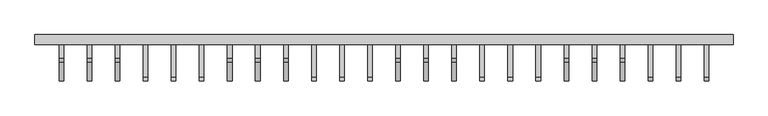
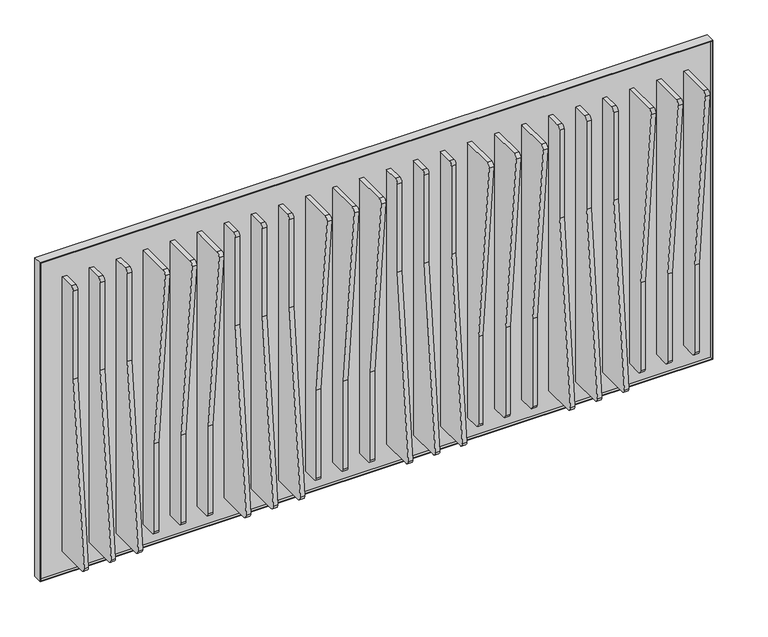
"""IFC4 building model written with IfcOpenShell, lengths in millimetres: proxy geometry, Frames_Plungle 3.3dm."""

import ifcopenshell
import ifcopenshell.guid

model = None  # the IFC model being written
_history = None  # IfcOwnerHistory: only IFC2X3 demands one
_inside = {}  # id of a spatial element -> (the spatial element, [elements in it])
_under = {}  # id of a project, library or spatial element -> (it, [spatial elements below it])
_declared = {}  # id of a project -> (the project, [libraries it declares])
_typed = {}  # id of a type object -> (the type object, [elements of that type])
_made_of = {}  # id of a material, layer set ... -> (it, [elements and type objects made of it])


def new_model(schema):
    """Start an empty IFC model of exactly this schema.

    Asked for "IFC4X3", IfcOpenShell would pick the latest addendum, in which some entities
    have other attributes; the version numbers below select the first issue.
    IFC2X3 requires an IfcOwnerHistory on every rooted entity: one is made here for all.
    """
    global model, _history
    if schema == "IFC4X3":
        model = ifcopenshell.file(schema_version=(4, 3, 0, 0))
    else:
        model = ifcopenshell.file(schema=schema)
    _inside.clear()
    _under.clear()
    _declared.clear()
    _typed.clear()
    _made_of.clear()
    _history = None
    if model.schema == "IFC2X3":
        org = make("IfcOrganization", Name="unknown")
        user = make(
            "IfcPersonAndOrganization",
            ThePerson=make("IfcPerson", FamilyName="unknown"),
            TheOrganization=org,
        )
        app = make(
            "IfcApplication",
            ApplicationDeveloper=org,
            Version="unknown",
            ApplicationFullName="unknown",
            ApplicationIdentifier="unknown",
        )
        _history = make(
            "IfcOwnerHistory",
            OwningUser=user,
            OwningApplication=app,
            ChangeAction="ADDED",
            CreationDate=0,
        )
    return model


def make(cls, **values):
    """One entity of the class cls with the attributes given. An attribute that is None is left unset."""
    return model.create_entity(
        cls, **{name: value for name, value in values.items() if value is not None}
    )


def rooted(cls, **values):
    """An entity with a GlobalId (a new one), such as an element, a storey or a relation."""
    return make(cls, GlobalId=ifcopenshell.guid.new(), OwnerHistory=_history, **values)


def si_unit(unit_type, name, prefix=None):
    """IfcSIUnit, for example si_unit("LENGTHUNIT", "METRE", prefix="MILLI")."""
    return make("IfcSIUnit", UnitType=unit_type, Prefix=prefix, Name=name)


def assignment(units):
    """IfcUnitAssignment: the units of a project."""
    return None if units is None else make("IfcUnitAssignment", Units=units)


def point(xyz):
    """IfcCartesianPoint."""
    return None if xyz is None else make("IfcCartesianPoint", Coordinates=xyz)


def direction(xyz):
    """IfcDirection."""
    return None if xyz is None else make("IfcDirection", DirectionRatios=xyz)


def frame(location, z_axis=None, x_axis=None):
    """IfcAxis2Placement3D, a coordinate frame: its origin and axes. An axis left out is left unset."""
    return make(
        "IfcAxis2Placement3D",
        Location=point(location),
        Axis=direction(z_axis),
        RefDirection=direction(x_axis),
    )


def frame_2d(location, x_axis=None):
    """IfcAxis2Placement2D, a coordinate frame in the plane: its origin and x axis."""
    return make(
        "IfcAxis2Placement2D", Location=point(location), RefDirection=direction(x_axis)
    )


def origin():
    """The frame at (0, 0, 0) with its axes left unset."""
    return frame((0.0, 0.0, 0.0))


def place(relative_to, where):
    """IfcLocalPlacement: puts the frame where relative to a parent placement (None: the world)."""
    return make(
        "IfcLocalPlacement", PlacementRelTo=relative_to, RelativePlacement=where
    )


def context(
    kind, dimensions, precision=None, world=None, true_north=None, identifier=None
):
    """IfcGeometricRepresentationContext, for example the 3D "Model" context."""
    return make(
        "IfcGeometricRepresentationContext",
        ContextIdentifier=identifier,
        ContextType=kind,
        CoordinateSpaceDimension=dimensions,
        Precision=precision,
        WorldCoordinateSystem=world,
        TrueNorth=true_north,
    )


def project(units=None, contexts=None):
    """IfcProject with its units and contexts."""
    return rooted(
        "IfcProject",
        Name="project",
        RepresentationContexts=contexts,
        UnitsInContext=assignment(units),
    )


def spatial(cls, under=None, at=None, **own):
    """A site, building, storey or space (cls), placed at a placement, below another one or the project."""
    s = rooted(cls, ObjectPlacement=at, **own)
    if under is not None:
        _under.setdefault(under.id(), (under, []))[1].append(s)
    return s


def polyline(points):
    """IfcPolyline through the points."""
    return make("IfcPolyline", Points=[point(p) for p in points])


def circle_curve(where, radius):
    """IfcCircle in the frame where."""
    return make("IfcCircle", Position=where, Radius=radius)


def trimmed(basis, trim1, trim2, sense, master):
    """IfcTrimmedCurve: the piece of a basis curve between two trims."""
    return make(
        "IfcTrimmedCurve",
        BasisCurve=basis,
        Trim1=trim1,
        Trim2=trim2,
        SenseAgreement=sense,
        MasterRepresentation=master,
    )


def segment(curve, same_sense, transition):
    """IfcCompositeCurveSegment."""
    return make(
        "IfcCompositeCurveSegment",
        Transition=transition,
        SameSense=same_sense,
        ParentCurve=curve,
    )


def composite_curve(segments, self_intersect=None):
    """IfcCompositeCurve: segments joined end to end."""
    return make("IfcCompositeCurve", Segments=segments, SelfIntersect=self_intersect)


def outline(outer, holes=None, kind="AREA"):
    """IfcArbitraryClosedProfileDef: a profile drawn as a closed curve; with holes, ...WithVoids."""
    if holes is None:
        return make("IfcArbitraryClosedProfileDef", ProfileType=kind, OuterCurve=outer)
    return make(
        "IfcArbitraryProfileDefWithVoids",
        ProfileType=kind,
        OuterCurve=outer,
        InnerCurves=holes,
    )


def extrude(swept, where, along, depth):
    """IfcExtrudedAreaSolid: the profile swept, set in the frame where, extruded along a direction by depth."""
    return make(
        "IfcExtrudedAreaSolid",
        SweptArea=swept,
        Position=where,
        ExtrudedDirection=direction(along),
        Depth=depth,
    )


def shape(context_of_items, identifier, shape_type, items):
    """IfcShapeRepresentation: the items that make up one representation, for example the "Body"."""
    return make(
        "IfcShapeRepresentation",
        ContextOfItems=context_of_items,
        RepresentationIdentifier=identifier,
        RepresentationType=shape_type,
        Items=items,
    )


def source(mapping_origin, context_of_items, identifier, shape_type, items):
    """IfcRepresentationMap: a shape defined once, which mapped items show again and again."""
    return make(
        "IfcRepresentationMap",
        MappingOrigin=mapping_origin,
        MappedRepresentation=shape(context_of_items, identifier, shape_type, items),
    )


def transform(
    local_origin,
    x_axis=None,
    y_axis=None,
    z_axis=None,
    scale=None,
    scale2=None,
    scale3=None,
    uniform=True,
):
    """IfcCartesianTransformationOperator3D, or its non-uniform kind. x_axis, y_axis, z_axis: its Axis1, 2, 3."""
    if uniform:
        return make(
            "IfcCartesianTransformationOperator3D",
            Axis1=direction(x_axis),
            Axis2=direction(y_axis),
            LocalOrigin=point(local_origin),
            Scale=scale,
            Axis3=direction(z_axis),
        )
    return make(
        "IfcCartesianTransformationOperator3DnonUniform",
        Axis1=direction(x_axis),
        Axis2=direction(y_axis),
        LocalOrigin=point(local_origin),
        Scale=scale,
        Axis3=direction(z_axis),
        Scale2=scale2,
        Scale3=scale3,
    )


def mapped(mapping_source, mapping_target):
    """IfcMappedItem: shows the shape of a source again, moved by a transform."""
    return make(
        "IfcMappedItem", MappingSource=mapping_source, MappingTarget=mapping_target
    )


def made_of(thing, what):
    """Note that an element or type object is made of a material, layer set ...; save() writes the relation."""
    if what is not None:
        _made_of.setdefault(what.id(), (what, []))[1].append(thing)
    return thing


def element(
    cls,
    number,
    at=None,
    inside=None,
    cuts=None,
    type_object=None,
    material=None,
    context=None,
    identifier="Body",
    shape_type=None,
    held_by="IfcProductDefinitionShape",
    body=None,
    shapes=None,
    **own,
):
    """One element of the class cls, such as IfcWall. Its Tag is "e" and its number.

    at: its placement. inside: the storey or other place that contains it. cuts: it is an
    opening in that element (IfcRelVoidsElement). A single representation is given by context,
    identifier, shape_type and body (its items); several are given by shapes. held_by: the class
    of the entity that holds the representations. save() writes the other relations.
    """
    e = rooted(cls, Tag="e%d" % number, ObjectPlacement=at, **own)
    if body is not None:
        shapes = [shape(context, identifier, shape_type, body)]
    if shapes is not None:
        e.Representation = make(held_by, Representations=shapes)
    if inside is not None:
        _inside.setdefault(inside.id(), (inside, []))[1].append(e)
    if cuts is not None:
        rooted(
            "IfcRelVoidsElement", RelatingBuildingElement=cuts, RelatedOpeningElement=e
        )
    if type_object is not None:
        _typed.setdefault(type_object.id(), (type_object, []))[1].append(e)
    return made_of(e, material)


def aggregate(whole, parts):
    """IfcRelAggregates: a whole, such as a stair, and the parts it consists of."""
    return rooted("IfcRelAggregates", RelatingObject=whole, RelatedObjects=parts)


def save(model, path):
    """Write the relations noted so far, then the file.

    IfcRelAggregates (storeys below a building ...), IfcRelContainedInSpatialStructure (elements
    in a storey), IfcRelDefinesByType, IfcRelAssociatesMaterial and IfcRelDeclares: one each for
    every whole, place, type object, material and project.
    """
    for whole, parts in _under.values():
        aggregate(whole, parts)
    for where, things in _inside.values():
        rooted(
            "IfcRelContainedInSpatialStructure",
            RelatedElements=things,
            RelatingStructure=where,
        )
    for kind, things in _typed.values():
        rooted("IfcRelDefinesByType", RelatedObjects=things, RelatingType=kind)
    for what, things in _made_of.values():
        rooted("IfcRelAssociatesMaterial", RelatedObjects=things, RelatingMaterial=what)
    for by, libraries in _declared.values():
        rooted("IfcRelDeclares", RelatingContext=by, RelatedDefinitions=libraries)
    model.write(path)


def generic_models_b62d93f3(model_context):
    return source(origin(), model_context, "Body", "SweptSolid", [
        extrude(outline(composite_curve([segment(trimmed(circle_curve(frame_2d((109.527821, 1345.9345395)), 10.0), [point((99.527821, 1345.9345395))], [point((109.527821, 1355.9345395))], False, "CARTESIAN"), True, "CONTINUOUS"), segment(polyline([(109.527821, 1355.9345395), (151.027821, 1355.9345395), (151.027821, 578.0003479), (59.7551965, 578.0003479)]), True, "CONTINUOUS"), segment(trimmed(circle_curve(frame_2d((59.7551965, 588.0003479)), 10.0), [point((59.7551965, 578.0003479))], [point((49.8028267, 588.9751998))], False, "CARTESIAN"), True, "CONTINUOUS"), segment(polyline([(49.8028267, 588.9751998), (99.527821, 1096.6231423), (99.527821, 1345.9345395)]), True, "CONTINUOUS")], self_intersect=False)), frame((5757.9818571, 0.0, 0.0), z_axis=(1.0, 0.0, 0.0), x_axis=(0.0, 1.0, 0.0)), (0.0, 0.0, 1.0), 12.0),
        extrude(outline(composite_curve([segment(trimmed(circle_curve(frame_2d((109.527821, 1345.9345395)), 10.0), [point((99.527821, 1345.9345395))], [point((109.527821, 1355.9345395))], False, "CARTESIAN"), True, "CONTINUOUS"), segment(polyline([(109.527821, 1355.9345395), (151.027821, 1355.9345395), (151.027821, 578.0003479), (59.7551965, 578.0003479)]), True, "CONTINUOUS"), segment(trimmed(circle_curve(frame_2d((59.7551965, 588.0003479)), 10.0), [point((59.7551965, 578.0003479))], [point((49.8028267, 588.9751998))], False, "CARTESIAN"), True, "CONTINUOUS"), segment(polyline([(49.8028267, 588.9751998), (99.527821, 1096.6231423), (99.527821, 1345.9345395)]), True, "CONTINUOUS")], self_intersect=False)), frame((5830.4618571, 0.0, 0.0), z_axis=(1.0, 0.0, 0.0), x_axis=(0.0, 1.0, 0.0)), (0.0, 0.0, 1.0), 12.0),
        extrude(outline(composite_curve([segment(trimmed(circle_curve(frame_2d((109.527821, 1345.9345395)), 10.0), [point((99.527821, 1345.9345395))], [point((109.527821, 1355.9345395))], False, "CARTESIAN"), True, "CONTINUOUS"), segment(polyline([(109.527821, 1355.9345395), (151.027821, 1355.9345395), (151.027821, 578.0003479), (59.7551965, 578.0003479)]), True, "CONTINUOUS"), segment(trimmed(circle_curve(frame_2d((59.7551965, 588.0003479)), 10.0), [point((59.7551965, 578.0003479))], [point((49.8028267, 588.9751998))], False, "CARTESIAN"), True, "CONTINUOUS"), segment(polyline([(49.8028267, 588.9751998), (99.527821, 1096.6231423), (99.527821, 1345.9345395)]), True, "CONTINUOUS")], self_intersect=False)), frame((5902.9418571, 0.0, 0.0), z_axis=(1.0, 0.0, 0.0), x_axis=(0.0, 1.0, 0.0)), (0.0, 0.0, 1.0), 12.0),
        extrude(outline(composite_curve([segment(polyline([(99.527821, 588.0004668), (99.527821, 837.311864), (49.8028267, 1344.9598066)]), True, "CONTINUOUS"), segment(trimmed(circle_curve(frame_2d((59.7551965, 1345.9346584)), 10.0), [point((49.8028267, 1344.9598066))], [point((59.7551965, 1355.9346584))], False, "CARTESIAN"), True, "CONTINUOUS"), segment(polyline([(59.7551965, 1355.9346584), (151.027821, 1355.9346584), (151.027821, 578.0004668), (109.527821, 578.0004668)]), True, "CONTINUOUS"), segment(trimmed(circle_curve(frame_2d((109.527821, 588.0004668)), 10.0), [point((109.527821, 578.0004668))], [point((99.527821, 588.0004668))], False, "CARTESIAN"), True, "CONTINUOUS")], self_intersect=False)), frame((6120.3793508, 0.0, 0.0), z_axis=(1.0, 0.0, 0.0), x_axis=(0.0, 1.0, 0.0)), (0.0, 0.0, 1.0), 12.0),
        extrude(outline(composite_curve([segment(polyline([(99.527821, 588.0004668), (99.527821, 837.311864), (49.8028267, 1344.9598066)]), True, "CONTINUOUS"), segment(trimmed(circle_curve(frame_2d((59.7551965, 1345.9346584)), 10.0), [point((49.8028267, 1344.9598066))], [point((59.7551965, 1355.9346584))], False, "CARTESIAN"), True, "CONTINUOUS"), segment(polyline([(59.7551965, 1355.9346584), (151.027821, 1355.9346584), (151.027821, 578.0004668), (109.527821, 578.0004668)]), True, "CONTINUOUS"), segment(trimmed(circle_curve(frame_2d((109.527821, 588.0004668)), 10.0), [point((109.527821, 578.0004668))], [point((99.527821, 588.0004668))], False, "CARTESIAN"), True, "CONTINUOUS")], self_intersect=False)), frame((6047.8993508, 0.0, 0.0), z_axis=(1.0, 0.0, 0.0), x_axis=(0.0, 1.0, 0.0)), (0.0, 0.0, 1.0), 12.0),
        extrude(outline(composite_curve([segment(polyline([(99.527821, 588.0004668), (99.527821, 837.311864), (49.8028267, 1344.9598066)]), True, "CONTINUOUS"), segment(trimmed(circle_curve(frame_2d((59.7551965, 1345.9346584)), 10.0), [point((49.8028267, 1344.9598066))], [point((59.7551965, 1355.9346584))], False, "CARTESIAN"), True, "CONTINUOUS"), segment(polyline([(59.7551965, 1355.9346584), (151.027821, 1355.9346584), (151.027821, 578.0004668), (109.527821, 578.0004668)]), True, "CONTINUOUS"), segment(trimmed(circle_curve(frame_2d((109.527821, 588.0004668)), 10.0), [point((109.527821, 578.0004668))], [point((99.527821, 588.0004668))], False, "CARTESIAN"), True, "CONTINUOUS")], self_intersect=False)), frame((5975.4193508, 0.0, 0.0), z_axis=(1.0, 0.0, 0.0), x_axis=(0.0, 1.0, 0.0)), (0.0, 0.0, 1.0), 12.0),
        extrude(outline(composite_curve([segment(trimmed(circle_curve(frame_2d((109.527821, 1345.9345395)), 10.0), [point((99.527821, 1345.9345395))], [point((109.527821, 1355.9345395))], False, "CARTESIAN"), True, "CONTINUOUS"), segment(polyline([(109.527821, 1355.9345395), (151.027821, 1355.9345395), (151.027821, 578.0003479), (59.7551965, 578.0003479)]), True, "CONTINUOUS"), segment(trimmed(circle_curve(frame_2d((59.7551965, 588.0003479)), 10.0), [point((59.7551965, 578.0003479))], [point((49.8028267, 588.9751998))], False, "CARTESIAN"), True, "CONTINUOUS"), segment(polyline([(49.8028267, 588.9751998), (99.527821, 1096.6231423), (99.527821, 1345.9345395)]), True, "CONTINUOUS")], self_intersect=False)), frame((6192.8568445, 0.0, 0.0), z_axis=(1.0, 0.0, 0.0), x_axis=(0.0, 1.0, 0.0)), (0.0, 0.0, 1.0), 12.0),
        extrude(outline(composite_curve([segment(trimmed(circle_curve(frame_2d((109.527821, 1345.9345395)), 10.0), [point((99.527821, 1345.9345395))], [point((109.527821, 1355.9345395))], False, "CARTESIAN"), True, "CONTINUOUS"), segment(polyline([(109.527821, 1355.9345395), (151.027821, 1355.9345395), (151.027821, 578.0003479), (59.7551965, 578.0003479)]), True, "CONTINUOUS"), segment(trimmed(circle_curve(frame_2d((59.7551965, 588.0003479)), 10.0), [point((59.7551965, 578.0003479))], [point((49.8028267, 588.9751998))], False, "CARTESIAN"), True, "CONTINUOUS"), segment(polyline([(49.8028267, 588.9751998), (99.527821, 1096.6231423), (99.527821, 1345.9345395)]), True, "CONTINUOUS")], self_intersect=False)), frame((6265.3368445, 0.0, 0.0), z_axis=(1.0, 0.0, 0.0), x_axis=(0.0, 1.0, 0.0)), (0.0, 0.0, 1.0), 12.0),
        extrude(outline(composite_curve([segment(trimmed(circle_curve(frame_2d((109.527821, 1345.9345395)), 10.0), [point((99.527821, 1345.9345395))], [point((109.527821, 1355.9345395))], False, "CARTESIAN"), True, "CONTINUOUS"), segment(polyline([(109.527821, 1355.9345395), (151.027821, 1355.9345395), (151.027821, 578.0003479), (59.7551965, 578.0003479)]), True, "CONTINUOUS"), segment(trimmed(circle_curve(frame_2d((59.7551965, 588.0003479)), 10.0), [point((59.7551965, 578.0003479))], [point((49.8028267, 588.9751998))], False, "CARTESIAN"), True, "CONTINUOUS"), segment(polyline([(49.8028267, 588.9751998), (99.527821, 1096.6231423), (99.527821, 1345.9345395)]), True, "CONTINUOUS")], self_intersect=False)), frame((6337.8168445, 0.0, 0.0), z_axis=(1.0, 0.0, 0.0), x_axis=(0.0, 1.0, 0.0)), (0.0, 0.0, 1.0), 12.0),
        extrude(outline(composite_curve([segment(polyline([(99.527821, 588.0004668), (99.527821, 837.311864), (49.8028267, 1344.9598066)]), True, "CONTINUOUS"), segment(trimmed(circle_curve(frame_2d((59.7551965, 1345.9346584)), 10.0), [point((49.8028267, 1344.9598066))], [point((59.7551965, 1355.9346584))], False, "CARTESIAN"), True, "CONTINUOUS"), segment(polyline([(59.7551965, 1355.9346584), (151.027821, 1355.9346584), (151.027821, 578.0004668), (109.527821, 578.0004668)]), True, "CONTINUOUS"), segment(trimmed(circle_curve(frame_2d((109.527821, 588.0004668)), 10.0), [point((109.527821, 578.0004668))], [point((99.527821, 588.0004668))], False, "CARTESIAN"), True, "CONTINUOUS")], self_intersect=False)), frame((6555.2543383, 0.0, 0.0), z_axis=(1.0, 0.0, 0.0), x_axis=(0.0, 1.0, 0.0)), (0.0, 0.0, 1.0), 12.0),
        extrude(outline(composite_curve([segment(polyline([(99.527821, 588.0004668), (99.527821, 837.311864), (49.8028267, 1344.9598066)]), True, "CONTINUOUS"), segment(trimmed(circle_curve(frame_2d((59.7551965, 1345.9346584)), 10.0), [point((49.8028267, 1344.9598066))], [point((59.7551965, 1355.9346584))], False, "CARTESIAN"), True, "CONTINUOUS"), segment(polyline([(59.7551965, 1355.9346584), (151.027821, 1355.9346584), (151.027821, 578.0004668), (109.527821, 578.0004668)]), True, "CONTINUOUS"), segment(trimmed(circle_curve(frame_2d((109.527821, 588.0004668)), 10.0), [point((109.527821, 578.0004668))], [point((99.527821, 588.0004668))], False, "CARTESIAN"), True, "CONTINUOUS")], self_intersect=False)), frame((6482.7743383, 0.0, 0.0), z_axis=(1.0, 0.0, 0.0), x_axis=(0.0, 1.0, 0.0)), (0.0, 0.0, 1.0), 12.0),
        extrude(outline(composite_curve([segment(polyline([(99.527821, 588.0004668), (99.527821, 837.311864), (49.8028267, 1344.9598066)]), True, "CONTINUOUS"), segment(trimmed(circle_curve(frame_2d((59.7551965, 1345.9346584)), 10.0), [point((49.8028267, 1344.9598066))], [point((59.7551965, 1355.9346584))], False, "CARTESIAN"), True, "CONTINUOUS"), segment(polyline([(59.7551965, 1355.9346584), (151.027821, 1355.9346584), (151.027821, 578.0004668), (109.527821, 578.0004668)]), True, "CONTINUOUS"), segment(trimmed(circle_curve(frame_2d((109.527821, 588.0004668)), 10.0), [point((109.527821, 578.0004668))], [point((99.527821, 588.0004668))], False, "CARTESIAN"), True, "CONTINUOUS")], self_intersect=False)), frame((6410.2943383, 0.0, 0.0), z_axis=(1.0, 0.0, 0.0), x_axis=(0.0, 1.0, 0.0)), (0.0, 0.0, 1.0), 12.0),
        extrude(outline(composite_curve([segment(trimmed(circle_curve(frame_2d((109.527821, 1345.9345395)), 10.0), [point((99.527821, 1345.9345395))], [point((109.527821, 1355.9345395))], False, "CARTESIAN"), True, "CONTINUOUS"), segment(polyline([(109.527821, 1355.9345395), (151.027821, 1355.9345395), (151.027821, 578.0003479), (59.7551965, 578.0003479)]), True, "CONTINUOUS"), segment(trimmed(circle_curve(frame_2d((59.7551965, 588.0003479)), 10.0), [point((59.7551965, 578.0003479))], [point((49.8028267, 588.9751998))], False, "CARTESIAN"), True, "CONTINUOUS"), segment(polyline([(49.8028267, 588.9751998), (99.527821, 1096.6231423), (99.527821, 1345.9345395)]), True, "CONTINUOUS")], self_intersect=False)), frame((6627.731832, 0.0, 0.0), z_axis=(1.0, 0.0, 0.0), x_axis=(0.0, 1.0, 0.0)), (0.0, 0.0, 1.0), 12.0),
        extrude(outline(composite_curve([segment(trimmed(circle_curve(frame_2d((109.527821, 1345.9345395)), 10.0), [point((99.527821, 1345.9345395))], [point((109.527821, 1355.9345395))], False, "CARTESIAN"), True, "CONTINUOUS"), segment(polyline([(109.527821, 1355.9345395), (151.027821, 1355.9345395), (151.027821, 578.0003479), (59.7551965, 578.0003479)]), True, "CONTINUOUS"), segment(trimmed(circle_curve(frame_2d((59.7551965, 588.0003479)), 10.0), [point((59.7551965, 578.0003479))], [point((49.8028267, 588.9751998))], False, "CARTESIAN"), True, "CONTINUOUS"), segment(polyline([(49.8028267, 588.9751998), (99.527821, 1096.6231423), (99.527821, 1345.9345395)]), True, "CONTINUOUS")], self_intersect=False)), frame((6700.211832, 0.0, 0.0), z_axis=(1.0, 0.0, 0.0), x_axis=(0.0, 1.0, 0.0)), (0.0, 0.0, 1.0), 12.0),
        extrude(outline(composite_curve([segment(trimmed(circle_curve(frame_2d((109.527821, 1345.9345395)), 10.0), [point((99.527821, 1345.9345395))], [point((109.527821, 1355.9345395))], False, "CARTESIAN"), True, "CONTINUOUS"), segment(polyline([(109.527821, 1355.9345395), (151.027821, 1355.9345395), (151.027821, 578.0003479), (59.7551965, 578.0003479)]), True, "CONTINUOUS"), segment(trimmed(circle_curve(frame_2d((59.7551965, 588.0003479)), 10.0), [point((59.7551965, 578.0003479))], [point((49.8028267, 588.9751998))], False, "CARTESIAN"), True, "CONTINUOUS"), segment(polyline([(49.8028267, 588.9751998), (99.527821, 1096.6231423), (99.527821, 1345.9345395)]), True, "CONTINUOUS")], self_intersect=False)), frame((6772.691832, 0.0, 0.0), z_axis=(1.0, 0.0, 0.0), x_axis=(0.0, 1.0, 0.0)), (0.0, 0.0, 1.0), 12.0),
        extrude(outline(composite_curve([segment(polyline([(99.527821, 588.0004668), (99.527821, 837.311864), (49.8028267, 1344.9598066)]), True, "CONTINUOUS"), segment(trimmed(circle_curve(frame_2d((59.7551965, 1345.9346584)), 10.0), [point((49.8028267, 1344.9598066))], [point((59.7551965, 1355.9346584))], False, "CARTESIAN"), True, "CONTINUOUS"), segment(polyline([(59.7551965, 1355.9346584), (151.027821, 1355.9346584), (151.027821, 578.0004668), (109.527821, 578.0004668)]), True, "CONTINUOUS"), segment(trimmed(circle_curve(frame_2d((109.527821, 588.0004668)), 10.0), [point((109.527821, 578.0004668))], [point((99.527821, 588.0004668))], False, "CARTESIAN"), True, "CONTINUOUS")], self_intersect=False)), frame((6990.1293257, 0.0, 0.0), z_axis=(1.0, 0.0, 0.0), x_axis=(0.0, 1.0, 0.0)), (0.0, 0.0, 1.0), 12.0),
        extrude(outline(composite_curve([segment(polyline([(99.527821, 588.0004668), (99.527821, 837.311864), (49.8028267, 1344.9598066)]), True, "CONTINUOUS"), segment(trimmed(circle_curve(frame_2d((59.7551965, 1345.9346584)), 10.0), [point((49.8028267, 1344.9598066))], [point((59.7551965, 1355.9346584))], False, "CARTESIAN"), True, "CONTINUOUS"), segment(polyline([(59.7551965, 1355.9346584), (151.027821, 1355.9346584), (151.027821, 578.0004668), (109.527821, 578.0004668)]), True, "CONTINUOUS"), segment(trimmed(circle_curve(frame_2d((109.527821, 588.0004668)), 10.0), [point((109.527821, 578.0004668))], [point((99.527821, 588.0004668))], False, "CARTESIAN"), True, "CONTINUOUS")], self_intersect=False)), frame((6917.6493257, 0.0, 0.0), z_axis=(1.0, 0.0, 0.0), x_axis=(0.0, 1.0, 0.0)), (0.0, 0.0, 1.0), 12.0),
        extrude(outline(composite_curve([segment(polyline([(99.527821, 588.0004668), (99.527821, 837.311864), (49.8028267, 1344.9598066)]), True, "CONTINUOUS"), segment(trimmed(circle_curve(frame_2d((59.7551965, 1345.9346584)), 10.0), [point((49.8028267, 1344.9598066))], [point((59.7551965, 1355.9346584))], False, "CARTESIAN"), True, "CONTINUOUS"), segment(polyline([(59.7551965, 1355.9346584), (151.027821, 1355.9346584), (151.027821, 578.0004668), (109.527821, 578.0004668)]), True, "CONTINUOUS"), segment(trimmed(circle_curve(frame_2d((109.527821, 588.0004668)), 10.0), [point((109.527821, 578.0004668))], [point((99.527821, 588.0004668))], False, "CARTESIAN"), True, "CONTINUOUS")], self_intersect=False)), frame((6845.1693257, 0.0, 0.0), z_axis=(1.0, 0.0, 0.0), x_axis=(0.0, 1.0, 0.0)), (0.0, 0.0, 1.0), 12.0),
        extrude(outline(composite_curve([segment(trimmed(circle_curve(frame_2d((109.527821, 1345.9345395)), 10.0), [point((99.527821, 1345.9345395))], [point((109.527821, 1355.9345395))], False, "CARTESIAN"), True, "CONTINUOUS"), segment(polyline([(109.527821, 1355.9345395), (151.027821, 1355.9345395), (151.027821, 578.0003479), (59.7551965, 578.0003479)]), True, "CONTINUOUS"), segment(trimmed(circle_curve(frame_2d((59.7551965, 588.0003479)), 10.0), [point((59.7551965, 578.0003479))], [point((49.8028267, 588.9751998))], False, "CARTESIAN"), True, "CONTINUOUS"), segment(polyline([(49.8028267, 588.9751998), (99.527821, 1096.6231423), (99.527821, 1345.9345395)]), True, "CONTINUOUS")], self_intersect=False)), frame((7062.6068195, 0.0, 0.0), z_axis=(1.0, 0.0, 0.0), x_axis=(0.0, 1.0, 0.0)), (0.0, 0.0, 1.0), 12.0),
        extrude(outline(composite_curve([segment(trimmed(circle_curve(frame_2d((109.527821, 1345.9345395)), 10.0), [point((99.527821, 1345.9345395))], [point((109.527821, 1355.9345395))], False, "CARTESIAN"), True, "CONTINUOUS"), segment(polyline([(109.527821, 1355.9345395), (151.027821, 1355.9345395), (151.027821, 578.0003479), (59.7551965, 578.0003479)]), True, "CONTINUOUS"), segment(trimmed(circle_curve(frame_2d((59.7551965, 588.0003479)), 10.0), [point((59.7551965, 578.0003479))], [point((49.8028267, 588.9751998))], False, "CARTESIAN"), True, "CONTINUOUS"), segment(polyline([(49.8028267, 588.9751998), (99.527821, 1096.6231423), (99.527821, 1345.9345395)]), True, "CONTINUOUS")], self_intersect=False)), frame((7135.0868195, 0.0, 0.0), z_axis=(1.0, 0.0, 0.0), x_axis=(0.0, 1.0, 0.0)), (0.0, 0.0, 1.0), 12.0),
        extrude(outline(composite_curve([segment(trimmed(circle_curve(frame_2d((109.527821, 1345.9345395)), 10.0), [point((99.527821, 1345.9345395))], [point((109.527821, 1355.9345395))], False, "CARTESIAN"), True, "CONTINUOUS"), segment(polyline([(109.527821, 1355.9345395), (151.027821, 1355.9345395), (151.027821, 578.0003479), (59.7551965, 578.0003479)]), True, "CONTINUOUS"), segment(trimmed(circle_curve(frame_2d((59.7551965, 588.0003479)), 10.0), [point((59.7551965, 578.0003479))], [point((49.8028267, 588.9751998))], False, "CARTESIAN"), True, "CONTINUOUS"), segment(polyline([(49.8028267, 588.9751998), (99.527821, 1096.6231423), (99.527821, 1345.9345395)]), True, "CONTINUOUS")], self_intersect=False)), frame((7207.5668195, 0.0, 0.0), z_axis=(1.0, 0.0, 0.0), x_axis=(0.0, 1.0, 0.0)), (0.0, 0.0, 1.0), 12.0),
        extrude(outline(composite_curve([segment(polyline([(99.527821, 588.0004668), (99.527821, 837.311864), (49.8028267, 1344.9598066)]), True, "CONTINUOUS"), segment(trimmed(circle_curve(frame_2d((59.7551965, 1345.9346584)), 10.0), [point((49.8028267, 1344.9598066))], [point((59.7551965, 1355.9346584))], False, "CARTESIAN"), True, "CONTINUOUS"), segment(polyline([(59.7551965, 1355.9346584), (151.027821, 1355.9346584), (151.027821, 578.0004668), (109.527821, 578.0004668)]), True, "CONTINUOUS"), segment(trimmed(circle_curve(frame_2d((109.527821, 588.0004668)), 10.0), [point((109.527821, 578.0004668))], [point((99.527821, 588.0004668))], False, "CARTESIAN"), True, "CONTINUOUS")], self_intersect=False)), frame((7280.0443132, 0.0, 0.0), z_axis=(1.0, 0.0, 0.0), x_axis=(0.0, 1.0, 0.0)), (0.0, 0.0, 1.0), 12.0),
        extrude(outline(composite_curve([segment(polyline([(99.527821, 588.0004668), (99.527821, 837.311864), (49.8028267, 1344.9598066)]), True, "CONTINUOUS"), segment(trimmed(circle_curve(frame_2d((59.7551965, 1345.9346584)), 10.0), [point((49.8028267, 1344.9598066))], [point((59.7551965, 1355.9346584))], False, "CARTESIAN"), True, "CONTINUOUS"), segment(polyline([(59.7551965, 1355.9346584), (151.027821, 1355.9346584), (151.027821, 578.0004668), (109.527821, 578.0004668)]), True, "CONTINUOUS"), segment(trimmed(circle_curve(frame_2d((109.527821, 588.0004668)), 10.0), [point((109.527821, 578.0004668))], [point((99.527821, 588.0004668))], False, "CARTESIAN"), True, "CONTINUOUS")], self_intersect=False)), frame((7352.5243132, 0.0, 0.0), z_axis=(1.0, 0.0, 0.0), x_axis=(0.0, 1.0, 0.0)), (0.0, 0.0, 1.0), 12.0),
        extrude(outline(composite_curve([segment(polyline([(99.527821, 588.0004668), (99.527821, 837.311864), (49.8028267, 1344.9598066)]), True, "CONTINUOUS"), segment(trimmed(circle_curve(frame_2d((59.7551965, 1345.9346584)), 10.0), [point((49.8028267, 1344.9598066))], [point((59.7551965, 1355.9346584))], False, "CARTESIAN"), True, "CONTINUOUS"), segment(polyline([(59.7551965, 1355.9346584), (151.027821, 1355.9346584), (151.027821, 578.0004668), (109.527821, 578.0004668)]), True, "CONTINUOUS"), segment(trimmed(circle_curve(frame_2d((109.527821, 588.0004668)), 10.0), [point((109.527821, 578.0004668))], [point((99.527821, 588.0004668))], False, "CARTESIAN"), True, "CONTINUOUS")], self_intersect=False)), frame((7425.0043132, 0.0, 0.0), z_axis=(1.0, 0.0, 0.0), x_axis=(0.0, 1.0, 0.0)), (0.0, 0.0, 1.0), 12.0),
        extrude(outline(polyline([(517.4346584, 7499.4930851), (1421.4346584, 7499.4930851), (1421.4346584, 5695.4930851), (517.4346584, 5695.4930851), (517.4346584, 7499.4930851)]), holes=[polyline([(519.4346584, 7497.4930851), (519.4346584, 5697.4930851), (1419.4346584, 5697.4930851), (1419.4346584, 7497.4930851), (519.4346584, 7497.4930851)])]), frame((0.0, 144.327821, 0.0), z_axis=(0.0, 1.0, 0.0), x_axis=(0.0, 0.0, 1.0)), (0.0, 0.0, 1.0), 25.4),
        extrude(outline(polyline([(7497.4930851, 151.027821), (5697.4930851, 151.027821), (5697.4930851, 163.027821), (7497.4930851, 163.027821), (7497.4930851, 151.027821)])), frame((0.0, 0.0, 519.4346584), z_axis=(0.0, 0.0, 1.0), x_axis=(1.0, 0.0, 0.0)), (0.0, 0.0, 1.0), 900.0),
    ])


if __name__ == "__main__":
    model = new_model("IFC4")
    model_context = context("Model", 3, world=origin())
    ifc_project = project(units=[si_unit("LENGTHUNIT", "METRE", prefix="MILLI")], contexts=[model_context])
    site = spatial("IfcSite", under=ifc_project)
    building = spatial("IfcBuilding", under=site)
    placement = place(None, origin())
    generic_models_shape = generic_models_b62d93f3(model_context)
    element("IfcBuildingElementProxy", 1, Name="Frames_Plungle 3.3dm", ObjectType="Frames_Plungle 3.3dm", at=placement, inside=building, context=model_context, shape_type="MappedRepresentation", body=[
        mapped(generic_models_shape, transform((0.0, 0.0, 0.0), x_axis=(1.0, 0.0, 0.0), y_axis=(0.0, 1.0, 0.0), z_axis=(0.0, 0.0, 1.0))),
    ])
    save(model, "model.ifc")
